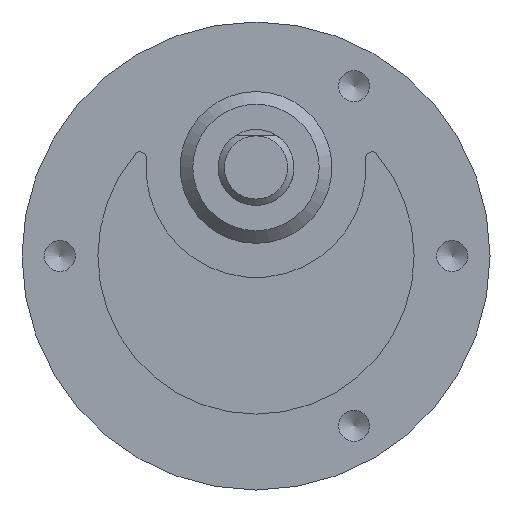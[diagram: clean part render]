
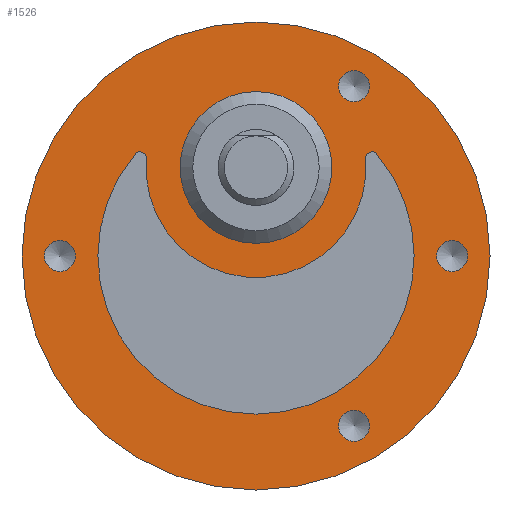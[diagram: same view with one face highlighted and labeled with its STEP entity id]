
A CAD part, front view. The second image highlights one B-rep face of the part: STEP entity #1526.
In plain terms, the highlighted planar face has unit normal (0, -1, 0).
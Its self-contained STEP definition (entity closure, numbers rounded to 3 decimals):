
#990=CARTESIAN_POINT('',(6.,-1.4,7.));
#991=VERTEX_POINT('',#990);
#992=CARTESIAN_POINT('',(0.0,-1.4,7.));
#993=DIRECTION('',(0.0,1.0,0.0));
#994=DIRECTION('',(-1.0,0.0,0.0));
#995=AXIS2_PLACEMENT_3D('',#992,#993,#994);
#996=CIRCLE('',#995,6.);
#997=EDGE_CURVE('',#991,#991,#996,.T.);
#1081=CARTESIAN_POINT('',(16.73,-1.4,0.0));
#1082=VERTEX_POINT('',#1081);
#1083=CARTESIAN_POINT('',(15.5,-1.4,0.0));
#1084=DIRECTION('',(0.0,1.0,0.0));
#1085=DIRECTION('',(1.0,0.0,0.0));
#1086=AXIS2_PLACEMENT_3D('',#1083,#1084,#1085);
#1087=CIRCLE('',#1086,1.23);
#1088=EDGE_CURVE('',#1082,#1082,#1087,.T.);
#1160=CARTESIAN_POINT('',(-14.27,-1.4,0.0));
#1161=VERTEX_POINT('',#1160);
#1162=CARTESIAN_POINT('',(-15.5,-1.4,0.0));
#1163=DIRECTION('',(0.0,1.0,0.0));
#1164=DIRECTION('',(1.0,0.0,0.0));
#1165=AXIS2_PLACEMENT_3D('',#1162,#1163,#1164);
#1166=CIRCLE('',#1165,1.23);
#1167=EDGE_CURVE('',#1161,#1161,#1166,.T.);
#1239=CARTESIAN_POINT('',(8.979,-1.4,13.423));
#1240=VERTEX_POINT('',#1239);
#1241=CARTESIAN_POINT('',(7.75,-1.4,13.423));
#1242=DIRECTION('',(0.0,1.0,0.0));
#1243=DIRECTION('',(1.0,0.0,0.0));
#1244=AXIS2_PLACEMENT_3D('',#1241,#1242,#1243);
#1245=CIRCLE('',#1244,1.23);
#1246=EDGE_CURVE('',#1240,#1240,#1245,.T.);
#1318=CARTESIAN_POINT('',(8.979,-1.4,-13.423));
#1319=VERTEX_POINT('',#1318);
#1320=CARTESIAN_POINT('',(7.75,-1.4,-13.423));
#1321=DIRECTION('',(0.0,1.0,0.0));
#1322=DIRECTION('',(1.0,0.0,0.0));
#1323=AXIS2_PLACEMENT_3D('',#1320,#1321,#1322);
#1324=CIRCLE('',#1323,1.23);
#1325=EDGE_CURVE('',#1319,#1319,#1324,.T.);
#1349=CARTESIAN_POINT('',(-9.552,-1.4,8.063));
#1350=VERTEX_POINT('',#1349);
#1357=CARTESIAN_POINT('',(9.552,-1.4,8.063));
#1358=VERTEX_POINT('',#1357);
#1359=CARTESIAN_POINT('',(0.0,-1.4,0.0));
#1360=DIRECTION('',(0.0,1.0,0.0));
#1361=DIRECTION('',(0.764,0.0,-0.645));
#1362=AXIS2_PLACEMENT_3D('',#1359,#1360,#1361);
#1363=CIRCLE('',#1362,12.5);
#1364=EDGE_CURVE('',#1358,#1350,#1363,.T.);
#1390=CARTESIAN_POINT('',(8.672,-1.4,7.7));
#1391=VERTEX_POINT('',#1390);
#1392=CARTESIAN_POINT('',(9.17,-1.4,7.74));
#1393=DIRECTION('',(0.0,1.,0.0));
#1394=DIRECTION('',(-0.764,0.0,-0.645));
#1395=AXIS2_PLACEMENT_3D('',#1392,#1393,#1394);
#1396=CIRCLE('',#1395,0.5);
#1397=EDGE_CURVE('',#1391,#1358,#1396,.T.);
#1423=CARTESIAN_POINT('',(-8.672,-1.4,7.7));
#1424=VERTEX_POINT('',#1423);
#1425=CARTESIAN_POINT('',(0.0,-1.4,7.));
#1426=DIRECTION('',(0.0,-1.,0.0));
#1427=DIRECTION('',(-0.997,0.0,0.08));
#1428=AXIS2_PLACEMENT_3D('',#1425,#1426,#1427);
#1429=CIRCLE('',#1428,8.7);
#1430=EDGE_CURVE('',#1424,#1391,#1429,.T.);
#1454=CARTESIAN_POINT('',(-9.17,-1.4,7.74));
#1455=DIRECTION('',(0.0,1.0,0.0));
#1456=DIRECTION('',(-0.997,0.0,0.08));
#1457=AXIS2_PLACEMENT_3D('',#1454,#1455,#1456);
#1458=CIRCLE('',#1457,0.5);
#1459=EDGE_CURVE('',#1350,#1424,#1458,.T.);
#1485=CARTESIAN_POINT('',(-18.5,-1.4,0.));
#1486=VERTEX_POINT('',#1485);
#1487=CARTESIAN_POINT('',(0.0,-1.4,0.0));
#1488=DIRECTION('',(0.0,-1.0,0.0));
#1489=DIRECTION('',(1.0,0.0,0.0));
#1490=AXIS2_PLACEMENT_3D('',#1487,#1488,#1489);
#1491=CIRCLE('',#1490,18.5);
#1492=EDGE_CURVE('',#1486,#1486,#1491,.T.);
#1497=CARTESIAN_POINT('',(0.0,-1.4,0.0));
#1498=DIRECTION('',(0.0,-1.0,0.0));
#1499=DIRECTION('',(0.0,0.0,-1.0));
#1500=AXIS2_PLACEMENT_3D('',#1497,#1498,#1499);
#1501=PLANE('',#1500);
#1502=ORIENTED_EDGE('',*,*,#1492,.T.);
#1503=EDGE_LOOP('',(#1502));
#1504=FACE_OUTER_BOUND('',#1503,.T.);
#1505=ORIENTED_EDGE('',*,*,#1088,.T.);
#1506=EDGE_LOOP('',(#1505));
#1507=FACE_BOUND('',#1506,.T.);
#1508=ORIENTED_EDGE('',*,*,#1167,.T.);
#1509=EDGE_LOOP('',(#1508));
#1510=FACE_BOUND('',#1509,.T.);
#1511=ORIENTED_EDGE('',*,*,#1246,.T.);
#1512=EDGE_LOOP('',(#1511));
#1513=FACE_BOUND('',#1512,.T.);
#1514=ORIENTED_EDGE('',*,*,#1325,.T.);
#1515=EDGE_LOOP('',(#1514));
#1516=FACE_BOUND('',#1515,.T.);
#1517=ORIENTED_EDGE('',*,*,#1364,.T.);
#1518=ORIENTED_EDGE('',*,*,#1459,.T.);
#1519=ORIENTED_EDGE('',*,*,#1430,.T.);
#1520=ORIENTED_EDGE('',*,*,#1397,.T.);
#1521=EDGE_LOOP('',(#1517,#1518,#1519,#1520));
#1522=FACE_BOUND('',#1521,.T.);
#1523=ORIENTED_EDGE('',*,*,#997,.T.);
#1524=EDGE_LOOP('',(#1523));
#1525=FACE_BOUND('',#1524,.T.);
#1526=ADVANCED_FACE('',(#1504,#1507,#1510,#1513,#1516,#1522,#1525),#1501,.T.);
